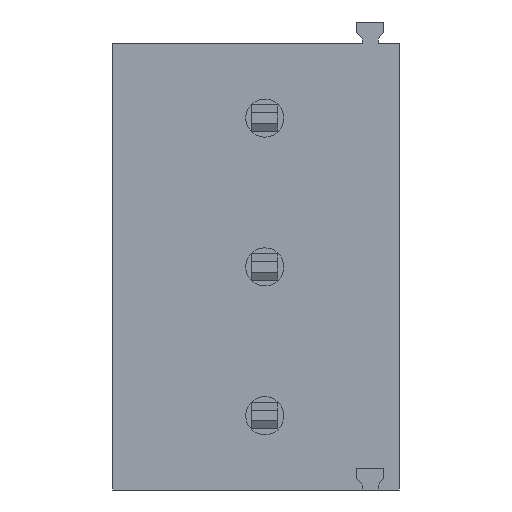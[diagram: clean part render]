
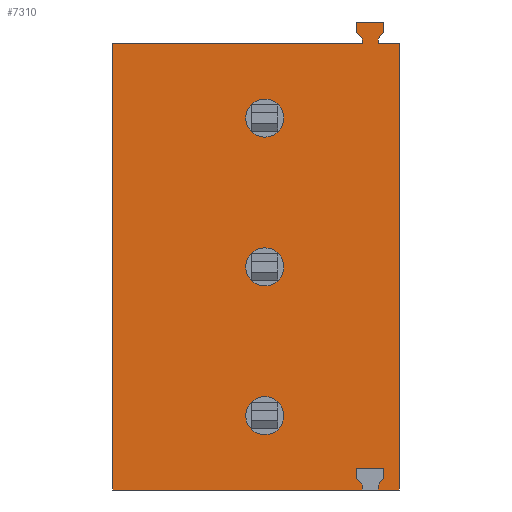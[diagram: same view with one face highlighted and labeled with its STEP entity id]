
A CAD part, front view. The second image highlights one B-rep face of the part: STEP entity #7310.
In plain terms, the highlighted planar face has unit normal (0, -1, 0).
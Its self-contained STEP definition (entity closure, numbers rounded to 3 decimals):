
#5270=CARTESIAN_POINT('',(-61.688,39.429,
-4.612));
#5280=DIRECTION('',(0.,-1.,0.));
#5290=DIRECTION('',(1.,0.,0.));
#5300=AXIS2_PLACEMENT_3D('',#5270,#5280,#5290);
#5310=PLANE('',#5300);
#5320=CARTESIAN_POINT('',(-59.33,39.429,-5.));
#5330=DIRECTION('',(-0.,-1.,0.));
#5340=DIRECTION('',(1.,0.,0.));
#5350=AXIS2_PLACEMENT_3D('',#5320,#5330,#5340);
#5360=CIRCLE('',#5350,0.65);
#5370=CARTESIAN_POINT('',(-59.98,39.429,-5.));
#5380=VERTEX_POINT('',#5370);
#5390=CARTESIAN_POINT('',(-58.68,39.429,-5.));
#5400=VERTEX_POINT('',#5390);
#5410=EDGE_CURVE('',#5380,#5400,#5360,.T.);
#5420=ORIENTED_EDGE('',*,*,#5410,.F.);
#5430=EDGE_CURVE('',#5400,#5380,#5360,.T.);
#5440=ORIENTED_EDGE('',*,*,#5430,.F.);
#5450=EDGE_LOOP('',(#5440,#5420));
#5460=FACE_BOUND('',#5450,.T.);
#5470=CARTESIAN_POINT('',(-59.33,39.429,-15.16));
#5480=DIRECTION('',(-0.,-1.,0.));
#5490=DIRECTION('',(1.,0.,0.));
#5500=AXIS2_PLACEMENT_3D('',#5470,#5480,#5490);
#5510=CIRCLE('',#5500,0.65);
#5520=CARTESIAN_POINT('',(-59.98,39.429,-15.16));
#5530=VERTEX_POINT('',#5520);
#5540=CARTESIAN_POINT('',(-58.68,39.429,-15.16));
#5550=VERTEX_POINT('',#5540);
#5560=EDGE_CURVE('',#5530,#5550,#5510,.T.);
#5570=ORIENTED_EDGE('',*,*,#5560,.F.);
#5580=EDGE_CURVE('',#5550,#5530,#5510,.T.);
#5590=ORIENTED_EDGE('',*,*,#5580,.F.);
#5600=EDGE_LOOP('',(#5590,#5570));
#5610=FACE_BOUND('',#5600,.T.);
#5620=CARTESIAN_POINT('',(-59.33,39.429,-10.08));
#5630=DIRECTION('',(-0.,-1.,0.));
#5640=DIRECTION('',(1.,0.,0.));
#5650=AXIS2_PLACEMENT_3D('',#5620,#5630,#5640);
#5660=CIRCLE('',#5650,0.65);
#5670=CARTESIAN_POINT('',(-59.98,39.429,-10.08));
#5680=VERTEX_POINT('',#5670);
#5690=CARTESIAN_POINT('',(-58.68,39.429,-10.08));
#5700=VERTEX_POINT('',#5690);
#5710=EDGE_CURVE('',#5680,#5700,#5660,.T.);
#5720=ORIENTED_EDGE('',*,*,#5710,.F.);
#5730=EDGE_CURVE('',#5700,#5680,#5660,.T.);
#5740=ORIENTED_EDGE('',*,*,#5730,.F.);
#5750=EDGE_LOOP('',(#5740,#5720));
#5760=FACE_BOUND('',#5750,.T.);
#5770=CARTESIAN_POINT('',(-118.259,39.429,-17.7));
#5780=DIRECTION('',(-1.,0.,0.));
#5790=VECTOR('',#5780,1.);
#5800=LINE('',#5770,#5790);
#5810=CARTESIAN_POINT('',(-54.73,39.429,-17.7));
#5820=VERTEX_POINT('',#5810);
#5830=CARTESIAN_POINT('',(-55.46,39.429,-17.7));
#5840=VERTEX_POINT('',#5830);
#5850=EDGE_CURVE('',#5820,#5840,#5800,.T.);
#5860=ORIENTED_EDGE('',*,*,#5850,.F.);
#5870=CARTESIAN_POINT('',(-55.46,39.429,-15.08));
#5880=DIRECTION('',(0.,0.,-1.));
#5890=VECTOR('',#5880,1.);
#5900=LINE('',#5870,#5890);
#5910=CARTESIAN_POINT('',(-55.46,39.429,
-17.533));
#5920=VERTEX_POINT('',#5910);
#5930=EDGE_CURVE('',#5920,#5840,#5900,.T.);
#5940=ORIENTED_EDGE('',*,*,#5930,.T.);
#5950=CARTESIAN_POINT('',(-53.398,39.429,-15.08));
#5960=DIRECTION('',(-0.644,0.,-0.765));
#5970=VECTOR('',#5960,1.);
#5980=LINE('',#5950,#5970);
#5990=CARTESIAN_POINT('',(-55.265,39.429,
-17.301));
#6000=VERTEX_POINT('',#5990);
#6010=EDGE_CURVE('',#6000,#5920,#5980,.T.);
#6020=ORIENTED_EDGE('',*,*,#6010,.T.);
#6030=CARTESIAN_POINT('',(-55.265,39.429,-15.08));
#6040=DIRECTION('',(0.,0.,-1.));
#6050=VECTOR('',#6040,1.);
#6060=LINE('',#6030,#6050);
#6070=CARTESIAN_POINT('',(-55.265,39.429,
-16.959));
#6080=VERTEX_POINT('',#6070);
#6090=EDGE_CURVE('',#6080,#6000,#6060,.T.);
#6100=ORIENTED_EDGE('',*,*,#6090,.T.);
#6110=CARTESIAN_POINT('',(-118.259,39.429,
-16.959));
#6120=DIRECTION('',(1.,0.,0.));
#6130=VECTOR('',#6120,1.);
#6140=LINE('',#6110,#6130);
#6150=CARTESIAN_POINT('',(-56.194,39.429,
-16.959));
#6160=VERTEX_POINT('',#6150);
#6170=EDGE_CURVE('',#6160,#6080,#6140,.T.);
#6180=ORIENTED_EDGE('',*,*,#6170,.T.);
#6190=CARTESIAN_POINT('',(-56.194,39.429,-15.08));
#6200=DIRECTION('',(0.,0.,1.));
#6210=VECTOR('',#6200,1.);
#6220=LINE('',#6190,#6210);
#6230=CARTESIAN_POINT('',(-56.194,39.429,
-17.301));
#6240=VERTEX_POINT('',#6230);
#6250=EDGE_CURVE('',#6240,#6160,#6220,.T.);
#6260=ORIENTED_EDGE('',*,*,#6250,.T.);
#6270=CARTESIAN_POINT('',(-58.061,39.429,-15.08));
#6280=DIRECTION('',(-0.644,0.,0.765));
#6290=VECTOR('',#6280,1.);
#6300=LINE('',#6270,#6290);
#6310=CARTESIAN_POINT('',(-55.999,39.429,
-17.533));
#6320=VERTEX_POINT('',#6310);
#6330=EDGE_CURVE('',#6320,#6240,#6300,.T.);
#6340=ORIENTED_EDGE('',*,*,#6330,.T.);
#6350=CARTESIAN_POINT('',(-55.999,39.429,-15.08));
#6360=DIRECTION('',(0.,0.,1.));
#6370=VECTOR('',#6360,1.);
#6380=LINE('',#6350,#6370);
#6390=CARTESIAN_POINT('',(-55.999,39.429,-17.7));
#6400=VERTEX_POINT('',#6390);
#6410=EDGE_CURVE('',#6400,#6320,#6380,.T.);
#6420=ORIENTED_EDGE('',*,*,#6410,.T.);
#6430=CARTESIAN_POINT('',(-64.53,39.429,-17.7));
#6440=VERTEX_POINT('',#6430);
#6450=EDGE_CURVE('',#6400,#6440,#5800,.T.);
#6460=ORIENTED_EDGE('',*,*,#6450,.F.);
#6470=CARTESIAN_POINT('',(-64.53,39.429,-10.));
#6480=DIRECTION('',(0.,0.,1.));
#6490=VECTOR('',#6480,1.);
#6500=LINE('',#6470,#6490);
#6510=CARTESIAN_POINT('',(-64.53,39.429,-2.46));
#6520=VERTEX_POINT('',#6510);
#6530=EDGE_CURVE('',#6440,#6520,#6500,.T.);
#6540=ORIENTED_EDGE('',*,*,#6530,.F.);
#6550=CARTESIAN_POINT('',(-118.259,39.429,
-2.46));
#6560=DIRECTION('',(-1.,0.,0.));
#6570=VECTOR('',#6560,1.);
#6580=LINE('',#6550,#6570);
#6590=CARTESIAN_POINT('',(-55.999,39.429,-2.46));
#6600=VERTEX_POINT('',#6590);
#6610=EDGE_CURVE('',#6600,#6520,#6580,.T.);
#6620=ORIENTED_EDGE('',*,*,#6610,.T.);
#6630=CARTESIAN_POINT('',(-55.999,39.429,-10.));
#6640=DIRECTION('',(0.,0.,1.));
#6650=VECTOR('',#6640,1.);
#6660=LINE('',#6630,#6650);
#6670=CARTESIAN_POINT('',(-55.999,39.429,
-2.293));
#6680=VERTEX_POINT('',#6670);
#6690=EDGE_CURVE('',#6600,#6680,#6660,.T.);
#6700=ORIENTED_EDGE('',*,*,#6690,.F.);
#6710=CARTESIAN_POINT('',(-49.518,39.429,-10.));
#6720=DIRECTION('',(-0.644,0.,0.765));
#6730=VECTOR('',#6720,1.);
#6740=LINE('',#6710,#6730);
#6750=CARTESIAN_POINT('',(-56.194,39.429,
-2.061));
#6760=VERTEX_POINT('',#6750);
#6770=EDGE_CURVE('',#6680,#6760,#6740,.T.);
#6780=ORIENTED_EDGE('',*,*,#6770,.F.);
#6790=CARTESIAN_POINT('',(-56.194,39.429,-10.));
#6800=DIRECTION('',(0.,0.,-1.));
#6810=VECTOR('',#6800,1.);
#6820=LINE('',#6790,#6810);
#6830=CARTESIAN_POINT('',(-56.194,39.429,
-1.719));
#6840=VERTEX_POINT('',#6830);
#6850=EDGE_CURVE('',#6840,#6760,#6820,.T.);
#6860=ORIENTED_EDGE('',*,*,#6850,.T.);
#6870=CARTESIAN_POINT('',(-118.259,39.429,
-1.719));
#6880=DIRECTION('',(1.,0.,0.));
#6890=VECTOR('',#6880,1.);
#6900=LINE('',#6870,#6890);
#6910=CARTESIAN_POINT('',(-55.265,39.429,
-1.719));
#6920=VERTEX_POINT('',#6910);
#6930=EDGE_CURVE('',#6840,#6920,#6900,.T.);
#6940=ORIENTED_EDGE('',*,*,#6930,.F.);
#6950=CARTESIAN_POINT('',(-55.265,39.429,-10.));
#6960=DIRECTION('',(0.,0.,-1.));
#6970=VECTOR('',#6960,1.);
#6980=LINE('',#6950,#6970);
#6990=CARTESIAN_POINT('',(-55.265,39.429,
-2.061));
#7000=VERTEX_POINT('',#6990);
#7010=EDGE_CURVE('',#6920,#7000,#6980,.T.);
#7020=ORIENTED_EDGE('',*,*,#7010,.F.);
#7030=CARTESIAN_POINT('',(-61.941,39.429,-10.));
#7040=DIRECTION('',(-0.644,0.,-0.765));
#7050=VECTOR('',#7040,1.);
#7060=LINE('',#7030,#7050);
#7070=CARTESIAN_POINT('',(-55.46,39.429,
-2.293));
#7080=VERTEX_POINT('',#7070);
#7090=EDGE_CURVE('',#7000,#7080,#7060,.T.);
#7100=ORIENTED_EDGE('',*,*,#7090,.F.);
#7110=CARTESIAN_POINT('',(-55.46,39.429,-10.));
#7120=DIRECTION('',(0.,0.,1.));
#7130=VECTOR('',#7120,1.);
#7140=LINE('',#7110,#7130);
#7150=CARTESIAN_POINT('',(-55.46,39.429,-2.46));
#7160=VERTEX_POINT('',#7150);
#7170=EDGE_CURVE('',#7160,#7080,#7140,.T.);
#7180=ORIENTED_EDGE('',*,*,#7170,.T.);
#7190=CARTESIAN_POINT('',(-54.73,39.429,-2.46));
#7200=VERTEX_POINT('',#7190);
#7210=EDGE_CURVE('',#7200,#7160,#6580,.T.);
#7220=ORIENTED_EDGE('',*,*,#7210,.T.);
#7230=CARTESIAN_POINT('',(-54.73,39.429,-10.));
#7240=DIRECTION('',(0.,0.,1.));
#7250=VECTOR('',#7240,1.);
#7260=LINE('',#7230,#7250);
#7270=EDGE_CURVE('',#5820,#7200,#7260,.T.);
#7280=ORIENTED_EDGE('',*,*,#7270,.T.);
#7290=EDGE_LOOP('',(#7280,#7220,#7180,#7100,#7020,#6940,#6860,#6780,
#6700,#6620,#6540,#6460,#6420,#6340,#6260,#6180,#6100,#6020,#5940,#5860)
);
#7300=FACE_OUTER_BOUND('',#7290,.T.);
#7310=ADVANCED_FACE('',(#5460,#5610,#5760,#7300),#5310,.T.);
